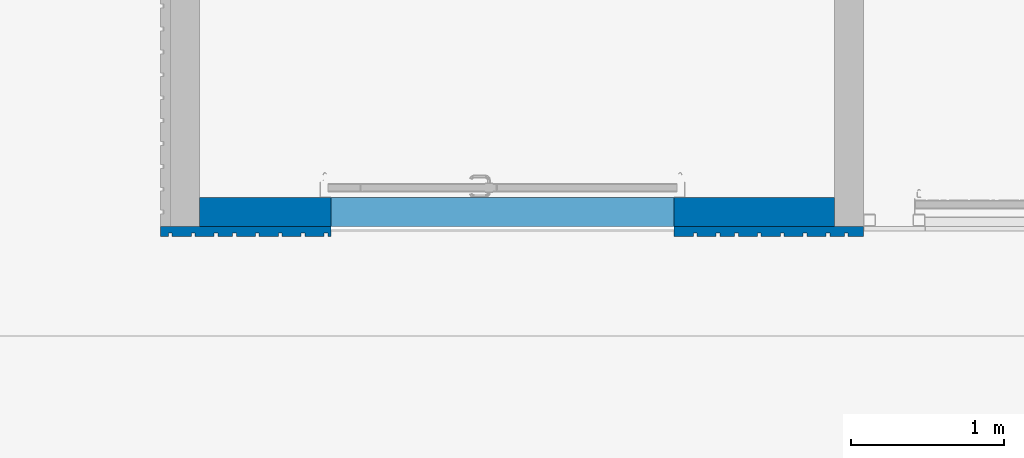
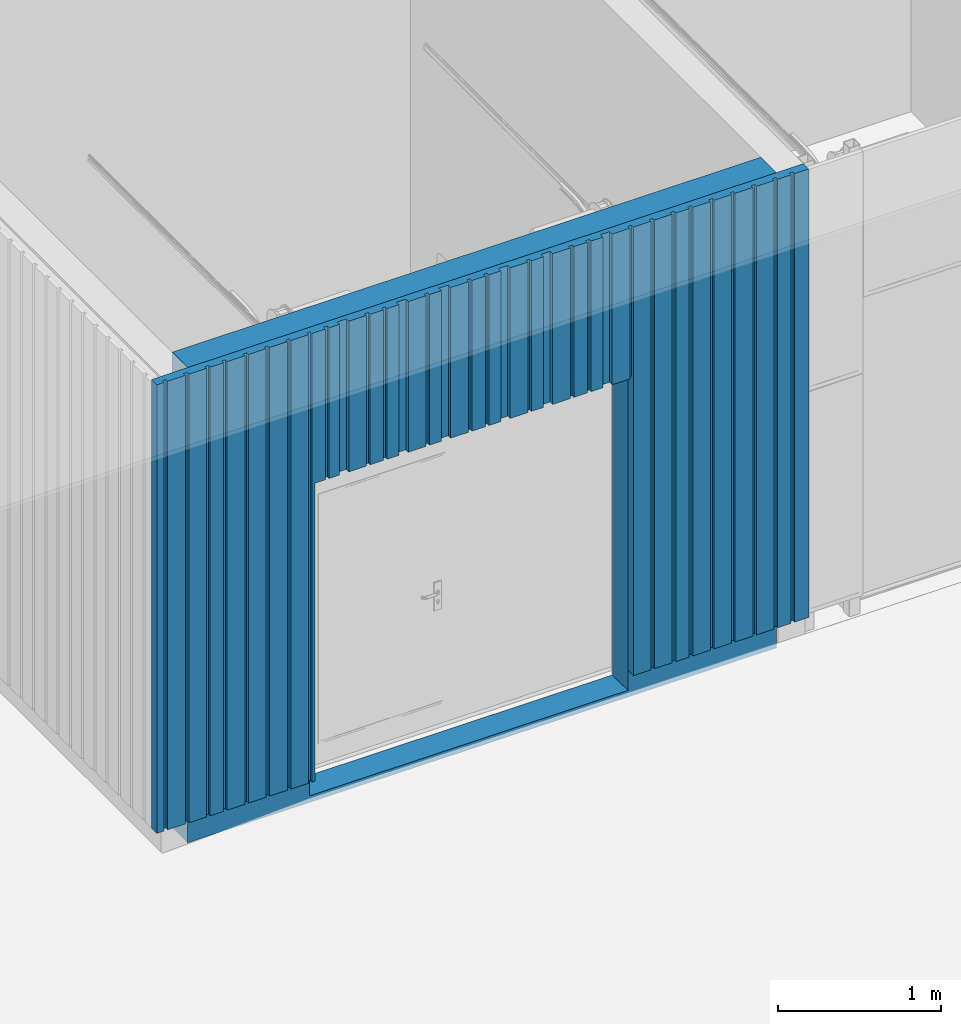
# One storey, part 26 of 77: 2 walls, 34 openings.
"""IFC2X3 building model written with IfcOpenShell, lengths in millimetres."""

from ifc_helpers import new_model, entity, si_unit, converted_unit, derived_unit, direction, frame, frame_2d, origin, origin_2d_with_axis, place, context, subcontext, project, spatial, rectangle, extrude, material, layer, layer_set, layer_usage, type_object, element, save


model = new_model("IFC2X3")

# Units and contexts
model_context = context("Model", 3, precision=0.01, world=origin(), true_north=direction((6.12303176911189e-17, 1.0)))
body_context = subcontext(model_context, "Body", "Model", "MODEL_VIEW")
ifc_project = project(units=[si_unit("LENGTHUNIT", "METRE", prefix="MILLI"), si_unit("AREAUNIT", "SQUARE_METRE"), si_unit("VOLUMEUNIT", "CUBIC_METRE"), converted_unit("PLANEANGLEUNIT", "DEGREE", entity("IfcRatioMeasure", 0.0174532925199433), si_unit("PLANEANGLEUNIT", "RADIAN"), dimensions=[0, 0, 0, 0, 0, 0, 0]), si_unit("MASSUNIT", "GRAM", prefix="KILO"), derived_unit("MASSDENSITYUNIT", [(si_unit("MASSUNIT", "GRAM", prefix="KILO"), 1), (si_unit("LENGTHUNIT", "METRE"), -3)]), si_unit("TIMEUNIT", "SECOND"), si_unit("FREQUENCYUNIT", "HERTZ"), si_unit("THERMODYNAMICTEMPERATUREUNIT", "DEGREE_CELSIUS"), derived_unit("THERMALTRANSMITTANCEUNIT", [(si_unit("MASSUNIT", "GRAM", prefix="KILO"), 1), (si_unit("THERMODYNAMICTEMPERATUREUNIT", "KELVIN"), -1), (si_unit("TIMEUNIT", "SECOND"), -3)]), derived_unit("VOLUMETRICFLOWRATEUNIT", [(si_unit("LENGTHUNIT", "METRE"), 3), (si_unit("TIMEUNIT", "SECOND"), -1)]), si_unit("ELECTRICCURRENTUNIT", "AMPERE"), si_unit("ELECTRICVOLTAGEUNIT", "VOLT"), si_unit("POWERUNIT", "WATT"), si_unit("FORCEUNIT", "NEWTON", prefix="KILO"), si_unit("ILLUMINANCEUNIT", "LUX"), si_unit("LUMINOUSFLUXUNIT", "LUMEN"), si_unit("LUMINOUSINTENSITYUNIT", "CANDELA"), derived_unit("USERDEFINED", [(si_unit("MASSUNIT", "GRAM", prefix="KILO"), -1), (si_unit("LENGTHUNIT", "METRE"), -2), (si_unit("TIMEUNIT", "SECOND"), 3), (si_unit("LUMINOUSFLUXUNIT", "LUMEN"), 1)]), derived_unit("LINEARVELOCITYUNIT", [(si_unit("LENGTHUNIT", "METRE"), 1), (si_unit("TIMEUNIT", "SECOND"), -1)]), si_unit("PRESSUREUNIT", "PASCAL"), derived_unit("USERDEFINED", [(si_unit("LENGTHUNIT", "METRE"), -2), (si_unit("MASSUNIT", "GRAM", prefix="KILO"), 1), (si_unit("TIMEUNIT", "SECOND"), -2)])], contexts=[model_context])

# Site, building, storey
site_placement = place(None, origin())
site = spatial("IfcSite", under=ifc_project, at=site_placement, Name="Default", CompositionType="ELEMENT")
building_placement = place(site_placement, origin())
building = spatial("IfcBuilding", under=site, at=building_placement, CompositionType="ELEMENT")
storey_placement = place(building_placement, origin())
storey = spatial("IfcBuildingStorey", under=building, at=storey_placement, Name="1. KORRUS", CompositionType="ELEMENT", Elevation=0.0)

# Wall, openings
ifc_material_1 = material(Name="Default New Material-must puit")
ifc_layer_1 = layer(ifc_material_1, 21.0)
ifc_material_2 = material(Name="Default New Material-must puit_roov")
ifc_layer_2 = layer(ifc_material_2, 45.0)
ifc_layer_set_1 = layer_set([ifc_layer_1, ifc_layer_2], Name="Basic Wall:VS-11_puitvooder")
ifc_layer_usage_1 = layer_usage(ifc_layer_set_1, "AXIS2", "POSITIVE", -33.0)
wall_type_1 = type_object("IfcWallType", Name="Basic Wall:VS-11_puitvooder", PredefinedType="STANDARD", material=ifc_layer_set_1)
wall_1_placement = place(storey_placement, frame((1133.76394587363, 36087.0, 50.0)))
wall_1 = element("IfcWallStandardCase", 1, at=wall_1_placement, inside=storey, type_object=wall_type_1, material=ifc_layer_usage_1, Name="Basic Wall:VS-11_puitvooder", ObjectType="Basic Wall:VS-11_puitvooder", context=body_context, shape_type="SweptSolid", body=[
    extrude(rectangle(XDim=4606.00086742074, YDim=66.0000000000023, at=frame_2d((2303.00043371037, 1.52766688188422e-13), x_axis=(-1.0, 0.0))), origin(), (0.0, 0.0, 1.0), 3350.0),
])
opening_1_placement = place(wall_1_placement, origin())
element("IfcOpeningElement", 2, at=opening_1_placement, cuts=wall_1, Name="Basic Wall:VS-11_puitvooder", ObjectType="Opening", context=body_context, shape_type="SweptSolid", body=[
    extrude(rectangle(XDim=2374.99999999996, YDim=2250.0, at=frame_2d((0.0, 1.13686837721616e-13), x_axis=(1.0, 0.0))), frame((2241.00086741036, -1301.0, 1037.49999999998), z_axis=(0.0, 1.0, 0.0), x_axis=(0.0, 0.0, 1.0)), (0.0, 0.0, 1.0), 3048.0),
])
opening_2_placement = place(wall_1_placement, origin())
element("IfcOpeningElement", 3, at=opening_2_placement, cuts=wall_1, Name="Basic Wall:VS-11_puitvooder", ObjectType="Recess", context=body_context, shape_type="SweptSolid", body=[
    extrude(rectangle(XDim=3350.0, YDim=25.0, at=frame_2d((0.0, 1.35891298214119e-13), x_axis=(1.0, 0.0))), frame((933.760238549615, -33.0, 1675.0), z_axis=(0.0, 1.0, 0.0), x_axis=(0.0, 0.0, -1.0)), (0.0, 0.0, 1.0), 20.9999999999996),
])
opening_3_placement = place(wall_1_placement, origin())
element("IfcOpeningElement", 4, at=opening_3_placement, cuts=wall_1, Name="Basic Wall:VS-11_puitvooder", ObjectType="Recess", context=body_context, shape_type="SweptSolid", body=[
    extrude(rectangle(XDim=3350.0, YDim=25.0, at=frame_2d((0.0, 1.35891298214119e-13), x_axis=(1.0, 0.0))), frame((783.760238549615, -33.0, 1675.0), z_axis=(0.0, 1.0, 0.0), x_axis=(0.0, 0.0, -1.0)), (0.0, 0.0, 1.0), 20.9999999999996),
])
opening_4_placement = place(wall_1_placement, origin())
element("IfcOpeningElement", 5, at=opening_4_placement, cuts=wall_1, Name="Basic Wall:VS-11_puitvooder", ObjectType="Recess", context=body_context, shape_type="SweptSolid", body=[
    extrude(rectangle(XDim=3350.0, YDim=25.0, at=frame_2d((0.0, 1.35891298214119e-13), x_axis=(1.0, 0.0))), frame((633.760238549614, -33.0, 1675.0), z_axis=(0.0, 1.0, 0.0), x_axis=(0.0, 0.0, -1.0)), (0.0, 0.0, 1.0), 20.9999999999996),
])
opening_5_placement = place(wall_1_placement, origin())
element("IfcOpeningElement", 6, at=opening_5_placement, cuts=wall_1, Name="Basic Wall:VS-11_puitvooder", ObjectType="Recess", context=body_context, shape_type="SweptSolid", body=[
    extrude(rectangle(XDim=3350.0, YDim=25.0, at=frame_2d((0.0, 1.35891298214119e-13), x_axis=(1.0, 0.0))), frame((483.760238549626, -33.0, 1675.0), z_axis=(0.0, 1.0, 0.0), x_axis=(0.0, 0.0, -1.0)), (0.0, 0.0, 1.0), 20.9999999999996),
])
opening_6_placement = place(wall_1_placement, origin())
element("IfcOpeningElement", 7, at=opening_6_placement, cuts=wall_1, Name="Basic Wall:VS-11_puitvooder", ObjectType="Recess", context=body_context, shape_type="SweptSolid", body=[
    extrude(rectangle(XDim=3350.0, YDim=25.0, at=frame_2d((0.0, -1.35891298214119e-13), x_axis=(1.0, 0.0))), frame((363.760238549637, -33.0, 1675.0), z_axis=(0.0, 1.0, 0.0), x_axis=(0.0, 0.0, -1.0)), (0.0, 0.0, 1.0), 20.9999999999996),
])
opening_7_placement = place(wall_1_placement, origin())
element("IfcOpeningElement", 8, at=opening_7_placement, cuts=wall_1, Name="Basic Wall:VS-11_puitvooder", ObjectType="Recess", context=body_context, shape_type="SweptSolid", body=[
    extrude(rectangle(XDim=3350.0, YDim=25.0, at=frame_2d((0.0, -1.35891298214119e-13), x_axis=(1.0, 0.0))), frame((213.760238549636, -33.0, 1675.0), z_axis=(0.0, 1.0, 0.0), x_axis=(0.0, 0.0, -1.0)), (0.0, 0.0, 1.0), 20.9999999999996),
])
opening_8_placement = place(wall_1_placement, origin())
element("IfcOpeningElement", 9, at=opening_8_placement, cuts=wall_1, Name="Basic Wall:VS-11_puitvooder", ObjectType="Recess", context=body_context, shape_type="SweptSolid", body=[
    extrude(rectangle(XDim=3350.0, YDim=25.0, at=origin_2d_with_axis()), frame((63.7602385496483, -33.0, 1675.0), z_axis=(0.0, 1.0, 0.0), x_axis=(0.0, 0.0, -1.0)), (0.0, 0.0, 1.0), 20.9999999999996),
])
opening_9_placement = place(wall_1_placement, origin())
element("IfcOpeningElement", 10, at=opening_9_placement, cuts=wall_1, Name="Basic Wall:VS-11_puitvooder", ObjectType="Recess", context=body_context, shape_type="SweptSolid", body=[
    extrude(rectangle(XDim=3350.0, YDim=24.9999999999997, at=origin_2d_with_axis()), frame((3503.50086741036, -33.0, 1675.0), z_axis=(0.0, 1.0, 0.0), x_axis=(0.0, 0.0, -1.0)), (0.0, 0.0, 1.0), 20.9999999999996),
])
opening_10_placement = place(wall_1_placement, origin())
element("IfcOpeningElement", 11, at=opening_10_placement, cuts=wall_1, Name="Basic Wall:VS-11_puitvooder", ObjectType="Recess", context=body_context, shape_type="SweptSolid", body=[
    extrude(rectangle(XDim=3350.0, YDim=24.9999999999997, at=frame_2d((0.0, -5.41788836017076e-13), x_axis=(1.0, 0.0))), frame((3773.50086741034, -33.0, 1675.0), z_axis=(0.0, 1.0, 0.0), x_axis=(0.0, 0.0, -1.0)), (0.0, 0.0, 1.0), 20.9999999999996),
])
opening_11_placement = place(wall_1_placement, origin())
element("IfcOpeningElement", 12, at=opening_11_placement, cuts=wall_1, Name="Basic Wall:VS-11_puitvooder", ObjectType="Recess", context=body_context, shape_type="SweptSolid", body=[
    extrude(rectangle(XDim=3350.0, YDim=24.9999999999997, at=origin_2d_with_axis()), frame((3653.50086741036, -33.0, 1675.0), z_axis=(0.0, 1.0, 0.0), x_axis=(0.0, 0.0, -1.0)), (0.0, 0.0, 1.0), 20.9999999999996),
])
opening_12_placement = place(wall_1_placement, origin())
element("IfcOpeningElement", 13, at=opening_12_placement, cuts=wall_1, Name="Basic Wall:VS-11_puitvooder", ObjectType="Recess", context=body_context, shape_type="SweptSolid", body=[
    extrude(rectangle(XDim=3350.0, YDim=24.9999999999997, at=frame_2d((0.0, -5.41788836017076e-13), x_axis=(1.0, 0.0))), frame((4223.50086741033, -33.0, 1675.0), z_axis=(0.0, 1.0, 0.0), x_axis=(0.0, 0.0, -1.0)), (0.0, 0.0, 1.0), 20.9999999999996),
])
opening_13_placement = place(wall_1_placement, origin())
element("IfcOpeningElement", 14, at=opening_13_placement, cuts=wall_1, Name="Basic Wall:VS-11_puitvooder", ObjectType="Recess", context=body_context, shape_type="SweptSolid", body=[
    extrude(rectangle(XDim=3350.0, YDim=24.9999999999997, at=frame_2d((0.0, -5.41788836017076e-13), x_axis=(1.0, 0.0))), frame((4073.50086741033, -33.0, 1675.0), z_axis=(0.0, 1.0, 0.0), x_axis=(0.0, 0.0, -1.0)), (0.0, 0.0, 1.0), 20.9999999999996),
])
opening_14_placement = place(wall_1_placement, origin())
element("IfcOpeningElement", 15, at=opening_14_placement, cuts=wall_1, Name="Basic Wall:VS-11_puitvooder", ObjectType="Recess", context=body_context, shape_type="SweptSolid", body=[
    extrude(rectangle(XDim=3350.0, YDim=24.9999999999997, at=frame_2d((0.0, -5.41788836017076e-13), x_axis=(1.0, 0.0))), frame((3923.50086741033, -33.0, 1675.0), z_axis=(0.0, 1.0, 0.0), x_axis=(0.0, 0.0, -1.0)), (0.0, 0.0, 1.0), 20.9999999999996),
])
opening_15_placement = place(wall_1_placement, origin())
element("IfcOpeningElement", 16, at=opening_15_placement, cuts=wall_1, Name="Basic Wall:VS-11_puitvooder", ObjectType="Recess", context=body_context, shape_type="SweptSolid", body=[
    extrude(rectangle(XDim=3350.0, YDim=24.9999999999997, at=frame_2d((0.0, -5.41788836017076e-13), x_axis=(1.0, 0.0))), frame((4493.50086741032, -33.0, 1675.0), z_axis=(0.0, 1.0, 0.0), x_axis=(0.0, 0.0, -1.0)), (0.0, 0.0, 1.0), 20.9999999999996),
])
opening_16_placement = place(wall_1_placement, origin())
element("IfcOpeningElement", 17, at=opening_16_placement, cuts=wall_1, Name="Basic Wall:VS-11_puitvooder", ObjectType="Recess", context=body_context, shape_type="SweptSolid", body=[
    extrude(rectangle(XDim=3350.0, YDim=24.9999999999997, at=origin_2d_with_axis()), frame((4373.50086741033, -33.0, 1675.0), z_axis=(0.0, 1.0, 0.0), x_axis=(0.0, 0.0, -1.0)), (0.0, 0.0, 1.0), 20.9999999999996),
])
opening_17_placement = place(wall_1_placement, origin())
element("IfcOpeningElement", 18, at=opening_17_placement, cuts=wall_1, Name="Basic Wall:VS-11_puitvooder", ObjectType="Recess", context=body_context, shape_type="SweptSolid", body=[
    extrude(rectangle(XDim=1125.00000000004, YDim=64.9999999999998, at=frame_2d((1.13686837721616e-13, 5.40012479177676e-13), x_axis=(1.0, 0.0))), frame((2763.50086741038, -33.0, 2787.49999999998), z_axis=(0.0, 1.0, 0.0), x_axis=(0.0, 0.0, -1.0)), (0.0, 0.0, 1.0), 30.0000000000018),
])
opening_18_placement = place(wall_1_placement, origin())
element("IfcOpeningElement", 19, at=opening_18_placement, cuts=wall_1, Name="Basic Wall:VS-11_puitvooder", ObjectType="Recess", context=body_context, shape_type="SweptSolid", body=[
    extrude(rectangle(XDim=1125.00000000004, YDim=24.9999999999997, at=frame_2d((1.13686837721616e-13, 5.41788836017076e-13), x_axis=(1.0, 0.0))), frame((3053.50086741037, -33.0, 2787.49999999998), z_axis=(0.0, 1.0, 0.0), x_axis=(0.0, 0.0, -1.0)), (0.0, 0.0, 1.0), 20.9999999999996),
])
opening_19_placement = place(wall_1_placement, origin())
element("IfcOpeningElement", 20, at=opening_19_placement, cuts=wall_1, Name="Basic Wall:VS-11_puitvooder", ObjectType="Recess", context=body_context, shape_type="SweptSolid", body=[
    extrude(rectangle(XDim=1125.00000000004, YDim=24.9999999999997, at=frame_2d((1.13686837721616e-13, -5.41788836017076e-13), x_axis=(1.0, 0.0))), frame((2933.50086741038, -33.0, 2787.49999999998), z_axis=(0.0, 1.0, 0.0), x_axis=(0.0, 0.0, -1.0)), (0.0, 0.0, 1.0), 20.9999999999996),
])
opening_20_placement = place(wall_1_placement, origin())
element("IfcOpeningElement", 21, at=opening_20_placement, cuts=wall_1, Name="Basic Wall:VS-11_puitvooder", ObjectType="Recess", context=body_context, shape_type="SweptSolid", body=[
    extrude(rectangle(XDim=3350.0, YDim=24.9999999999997, at=origin_2d_with_axis()), frame((3353.50086741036, -33.0, 1675.0), z_axis=(0.0, 1.0, 0.0), x_axis=(0.0, 0.0, -1.0)), (0.0, 0.0, 1.0), 20.9999999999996),
])
opening_21_placement = place(wall_1_placement, origin())
element("IfcOpeningElement", 22, at=opening_21_placement, cuts=wall_1, Name="Basic Wall:VS-11_puitvooder", ObjectType="Recess", context=body_context, shape_type="SweptSolid", body=[
    extrude(rectangle(XDim=1125.00000000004, YDim=64.9999999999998, at=frame_2d((-1.70530256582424e-13, 2.70006239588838e-13), x_axis=(1.0, 0.0))), frame((3183.50086741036, -33.0, 2787.49999999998), z_axis=(0.0, 1.0, 0.0), x_axis=(0.0, 0.0, -1.0)), (0.0, 0.0, 1.0), 30.0000000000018),
])
opening_22_placement = place(wall_1_placement, origin())
element("IfcOpeningElement", 23, at=opening_22_placement, cuts=wall_1, Name="Basic Wall:VS-11_puitvooder", ObjectType="Recess", context=body_context, shape_type="SweptSolid", body=[
    extrude(rectangle(XDim=1125.00000000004, YDim=64.9999999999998, at=frame_2d((-1.70530256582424e-13, 2.70006239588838e-13), x_axis=(1.0, 0.0))), frame((2043.5008674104, -33.0, 2787.49999999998), z_axis=(0.0, 1.0, 0.0), x_axis=(0.0, 0.0, -1.0)), (0.0, 0.0, 1.0), 30.0000000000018),
])
opening_23_placement = place(wall_1_placement, origin())
element("IfcOpeningElement", 24, at=opening_23_placement, cuts=wall_1, Name="Basic Wall:VS-11_puitvooder", ObjectType="Recess", context=body_context, shape_type="SweptSolid", body=[
    extrude(rectangle(XDim=1125.00000000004, YDim=24.9999999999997, at=frame_2d((-1.70530256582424e-13, -5.41788836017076e-13), x_axis=(1.0, 0.0))), frame((2333.50086741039, -33.0, 2787.49999999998), z_axis=(0.0, 1.0, 0.0), x_axis=(0.0, 0.0, -1.0)), (0.0, 0.0, 1.0), 20.9999999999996),
])
opening_24_placement = place(wall_1_placement, origin())
element("IfcOpeningElement", 25, at=opening_24_placement, cuts=wall_1, Name="Basic Wall:VS-11_puitvooder", ObjectType="Recess", context=body_context, shape_type="SweptSolid", body=[
    extrude(rectangle(XDim=1125.00000000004, YDim=24.9999999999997, at=frame_2d((-1.70530256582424e-13, 5.41788836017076e-13), x_axis=(1.0, 0.0))), frame((2213.5008674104, -33.0, 2787.49999999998), z_axis=(0.0, 1.0, 0.0), x_axis=(0.0, 0.0, -1.0)), (0.0, 0.0, 1.0), 20.9999999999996),
])
opening_25_placement = place(wall_1_placement, origin())
element("IfcOpeningElement", 26, at=opening_25_placement, cuts=wall_1, Name="Basic Wall:VS-11_puitvooder", ObjectType="Recess", context=body_context, shape_type="SweptSolid", body=[
    extrude(rectangle(XDim=1125.00000000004, YDim=24.9999999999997, at=frame_2d((-1.70530256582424e-13, 0.0), x_axis=(1.0, 0.0))), frame((2633.50086741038, -33.0, 2787.49999999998), z_axis=(0.0, 1.0, 0.0), x_axis=(0.0, 0.0, -1.0)), (0.0, 0.0, 1.0), 20.9999999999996),
])
opening_26_placement = place(wall_1_placement, origin())
element("IfcOpeningElement", 27, at=opening_26_placement, cuts=wall_1, Name="Basic Wall:VS-11_puitvooder", ObjectType="Recess", context=body_context, shape_type="SweptSolid", body=[
    extrude(rectangle(XDim=1125.00000000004, YDim=64.9999999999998, at=frame_2d((-1.70530256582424e-13, 2.70006239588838e-13), x_axis=(1.0, 0.0))), frame((2463.50086741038, -33.0, 2787.49999999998), z_axis=(0.0, 1.0, 0.0), x_axis=(0.0, 0.0, -1.0)), (0.0, 0.0, 1.0), 30.0000000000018),
])
opening_27_placement = place(wall_1_placement, origin())
element("IfcOpeningElement", 28, at=opening_27_placement, cuts=wall_1, Name="Basic Wall:VS-11_puitvooder", ObjectType="Recess", context=body_context, shape_type="SweptSolid", body=[
    extrude(rectangle(XDim=1125.00000000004, YDim=65.0000000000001, at=frame_2d((-1.70530256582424e-13, -1.35003119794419e-13), x_axis=(1.0, 0.0))), frame((1323.50086741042, -33.0, 2787.49999999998), z_axis=(0.0, 1.0, 0.0), x_axis=(0.0, 0.0, -1.0)), (0.0, 0.0, 1.0), 30.0000000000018),
])
opening_28_placement = place(wall_1_placement, origin())
element("IfcOpeningElement", 29, at=opening_28_placement, cuts=wall_1, Name="Basic Wall:VS-11_puitvooder", ObjectType="Recess", context=body_context, shape_type="SweptSolid", body=[
    extrude(rectangle(XDim=1125.00000000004, YDim=24.9999999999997, at=frame_2d((-1.70530256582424e-13, 0.0), x_axis=(1.0, 0.0))), frame((1613.50086741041, -33.0, 2787.49999999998), z_axis=(0.0, 1.0, 0.0), x_axis=(0.0, 0.0, -1.0)), (0.0, 0.0, 1.0), 20.9999999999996),
])
opening_29_placement = place(wall_1_placement, origin())
element("IfcOpeningElement", 30, at=opening_29_placement, cuts=wall_1, Name="Basic Wall:VS-11_puitvooder", ObjectType="Recess", context=body_context, shape_type="SweptSolid", body=[
    extrude(rectangle(XDim=1125.00000000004, YDim=24.9999999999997, at=frame_2d((-1.70530256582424e-13, 0.0), x_axis=(1.0, 0.0))), frame((1493.50086741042, -33.0, 2787.49999999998), z_axis=(0.0, 1.0, 0.0), x_axis=(0.0, 0.0, -1.0)), (0.0, 0.0, 1.0), 20.9999999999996),
])
opening_30_placement = place(wall_1_placement, origin())
element("IfcOpeningElement", 31, at=opening_30_placement, cuts=wall_1, Name="Basic Wall:VS-11_puitvooder", ObjectType="Recess", context=body_context, shape_type="SweptSolid", body=[
    extrude(rectangle(XDim=1125.00000000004, YDim=24.9999999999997, at=frame_2d((-1.70530256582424e-13, 0.0), x_axis=(1.0, 0.0))), frame((1913.5008674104, -33.0, 2787.49999999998), z_axis=(0.0, 1.0, 0.0), x_axis=(0.0, 0.0, -1.0)), (0.0, 0.0, 1.0), 20.9999999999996),
])
opening_31_placement = place(wall_1_placement, origin())
element("IfcOpeningElement", 32, at=opening_31_placement, cuts=wall_1, Name="Basic Wall:VS-11_puitvooder", ObjectType="Recess", context=body_context, shape_type="SweptSolid", body=[
    extrude(rectangle(XDim=1125.00000000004, YDim=64.9999999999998, at=frame_2d((-1.70530256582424e-13, 2.70006239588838e-13), x_axis=(1.0, 0.0))), frame((1743.5008674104, -33.0, 2787.49999999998), z_axis=(0.0, 1.0, 0.0), x_axis=(0.0, 0.0, -1.0)), (0.0, 0.0, 1.0), 30.0000000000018),
])
opening_32_placement = place(wall_1_placement, origin())
element("IfcOpeningElement", 33, at=opening_32_placement, cuts=wall_1, Name="Basic Wall:VS-11_puitvooder", ObjectType="Recess", context=body_context, shape_type="SweptSolid", body=[
    extrude(rectangle(XDim=3350.0, YDim=25.0, at=frame_2d((0.0, 1.35891298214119e-13), x_axis=(1.0, 0.0))), frame((1083.76023854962, -33.0, 1675.0), z_axis=(0.0, 1.0, 0.0), x_axis=(0.0, 0.0, -1.0)), (0.0, 0.0, 1.0), 20.9999999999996),
])
opening_33_placement = place(wall_1_placement, origin())
element("IfcOpeningElement", 34, at=opening_33_placement, cuts=wall_1, Name="Basic Wall:VS-11_puitvooder", ObjectType="Recess", context=body_context, shape_type="SweptSolid", body=[
    extrude(rectangle(XDim=1125.00000000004, YDim=25.0, at=frame_2d((-1.70530256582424e-13, 1.35891298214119e-13), x_axis=(1.0, 0.0))), frame((1203.7602385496, -33.0, 2787.49999999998), z_axis=(0.0, 1.0, 0.0), x_axis=(0.0, 0.0, -1.0)), (0.0, 0.0, 1.0), 20.9999999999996),
])

# Wall, opening
ifc_material_3 = material(Name="Columbia-kivi(_värvitud-must")
ifc_layer_3 = layer(ifc_material_3, 190.0)
ifc_layer_set_2 = layer_set([ifc_layer_3], Name="Basic Wall:VS-11_Columbia190 must")
ifc_layer_usage_2 = layer_usage(ifc_layer_set_2, "AXIS2", "POSITIVE", -95.0)
wall_type_2 = type_object("IfcWallType", Name="Basic Wall:VS-11_Columbia190 must", PredefinedType="STANDARD", material=ifc_layer_set_2)
wall_2_placement = place(storey_placement, frame((1389.76481328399, 36215.0, -150.0)))
wall_2 = element("IfcWallStandardCase", 35, at=wall_2_placement, inside=storey, type_object=wall_type_2, material=ifc_layer_usage_2, Name="Basic Wall:VS-11_Columbia190 must", ObjectType="Basic Wall:VS-11_Columbia190 must", context=body_context, shape_type="SweptSolid", body=[
    extrude(rectangle(XDim=4160.00000001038, YDim=190.0, at=frame_2d((2080.00000000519, -4.90274487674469e-13), x_axis=(-1.0, 0.0))), origin(), (0.0, 0.0, 1.0), 3550.0),
])
opening_34_placement = place(wall_2_placement, frame((860.0, -95.0, 50.0)))
element("IfcOpeningElement", 36, at=opening_34_placement, cuts=wall_2, Name="Doors_Industrial_ASSA-ABLOY-OH1042P_Panels-DARP-With-Passdoor:GU04__ASSA-ABLOY-OH1042P:1", ObjectType="Opening", context=body_context, shape_type="SweptSolid", body=[
    extrude(rectangle(XDim=2374.99999999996, YDim=2250.0, at=frame_2d((1187.49999999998, 1125.0), x_axis=(1.0, 0.0))), frame((0.0, 0.0, 0.0), z_axis=(0.0, 1.0, 0.0), x_axis=(0.0, 0.0, 1.0)), (0.0, 0.0, 1.0), 190.0),
])

save(model, "model.ifc")
